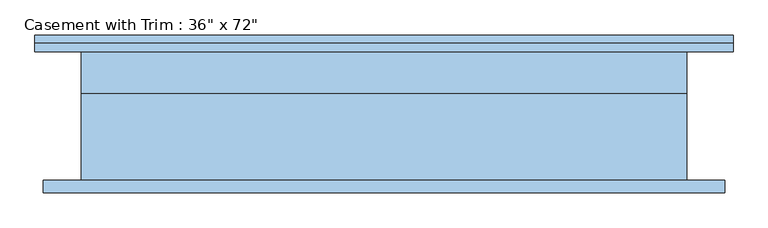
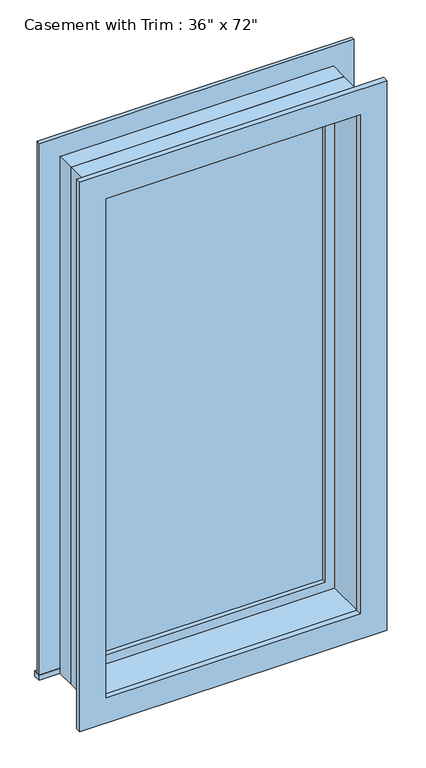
"""IFC4 building model written with IfcOpenShell, lengths in millimetres: window geometry."""

from ifc_helpers import new_model, si_unit, frame, origin, place, context, project, spatial, polyline, outline, extrude, source, transform, mapped, element, save


def window_e6bbc231(model_context):
    return source(origin(), model_context, "Body", "SweptSolid", [
        extrude(outline(polyline([(-527.05, 122.2375), (527.05, 122.2375), (527.05, 96.8375), (-527.05, 96.8375), (-527.05, 122.2375)])), frame((0.0, 0.0, 304.8), z_axis=(0.0, 0.0, 1.0), x_axis=(1.0, 0.0, 0.0)), (0.0, 0.0, 1.0), 19.05),
        extrude(outline(polyline([(2114.55, -438.15), (2114.55, 438.15), (323.85, 438.15), (323.85, 527.05), (2203.45, 527.05), (2203.45, -527.05), (323.85, -527.05), (323.85, -438.15), (2114.55, -438.15)])), frame((0.0, 96.8375, 0.0), z_axis=(0.0, 1.0, 0.0), x_axis=(0.0, 0.0, 1.0)), (0.0, 0.0, 1.0), 12.7),
        extrude(outline(polyline([(2190.75, 514.35), (2190.75, -514.35), (247.65, -514.35), (247.65, 514.35), (2190.75, 514.35)]), holes=[polyline([(2101.85, 425.45), (336.55, 425.45), (336.55, -425.45), (2101.85, -425.45), (2101.85, 425.45)])]), frame((0.0, -115.8875, 0.0), z_axis=(0.0, 1.0, 0.0), x_axis=(0.0, 0.0, 1.0)), (0.0, 0.0, 1.0), 19.05),
        extrude(outline(polyline([(393.7, 49.2125), (-393.7, 49.2125), (-393.7, 61.9125), (393.7, 61.9125), (393.7, 49.2125)])), frame((0.0, 0.0, 368.3), z_axis=(0.0, 0.0, 1.0), x_axis=(1.0, 0.0, 0.0)), (0.0, 0.0, 1.0), 1701.8),
        extrude(outline(polyline([(2114.55, -438.15), (323.85, -438.15), (323.85, 438.15), (2114.55, 438.15), (2114.55, -438.15)]), holes=[polyline([(2070.1, -393.7), (2070.1, 393.7), (368.3, 393.7), (368.3, -393.7), (2070.1, -393.7)])]), frame((0.0, 33.3375, 0.0), z_axis=(0.0, 1.0, 0.0), x_axis=(0.0, 0.0, 1.0)), (0.0, 0.0, 1.0), 44.45),
        extrude(outline(polyline([(2133.6, -457.2), (304.8, -457.2), (304.8, 457.2), (2133.6, 457.2), (2133.6, -457.2)]), holes=[polyline([(2101.85, -425.45), (2101.85, 425.45), (336.55, 425.45), (336.55, -425.45), (2101.85, -425.45)])]), frame((0.0, -96.8375, 0.0), z_axis=(0.0, 1.0, 0.0), x_axis=(0.0, 0.0, 1.0)), (0.0, 0.0, 1.0), 130.175),
        extrude(outline(polyline([(2133.6, 457.2), (2133.6, -457.2), (304.8, -457.2), (304.8, 457.2), (2133.6, 457.2)]), holes=[polyline([(2114.55, 438.15), (323.85, 438.15), (323.85, -438.15), (2114.55, -438.15), (2114.55, 438.15)])]), frame((0.0, 33.3375, 0.0), z_axis=(0.0, 1.0, 0.0), x_axis=(0.0, 0.0, 1.0)), (0.0, 0.0, 1.0), 63.5),
    ])


if __name__ == "__main__":
    model = new_model("IFC4")
    model_context = context("Model", 3, world=origin())
    ifc_project = project(units=[si_unit("LENGTHUNIT", "METRE", prefix="MILLI")], contexts=[model_context])
    site = spatial("IfcSite", under=ifc_project)
    building = spatial("IfcBuilding", under=site)
    placement = place(None, origin())
    window_shape = window_e6bbc231(model_context)
    element("IfcWindow", 1, ObjectType="Casement with Trim : 36\" x 72\"", at=placement, inside=building, context=model_context, shape_type="MappedRepresentation", body=[
        mapped(window_shape, transform((0.0, 0.0, 0.0), x_axis=(1.0, 0.0, 0.0), y_axis=(0.0, 1.0, 0.0), z_axis=(0.0, 0.0, 1.0))),
    ])
    save(model, "model.ifc")
